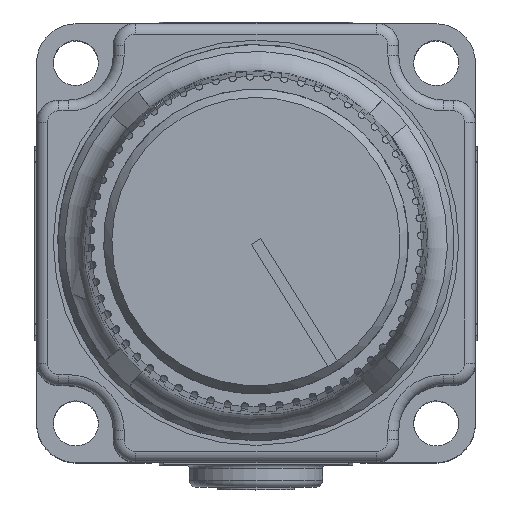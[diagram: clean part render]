
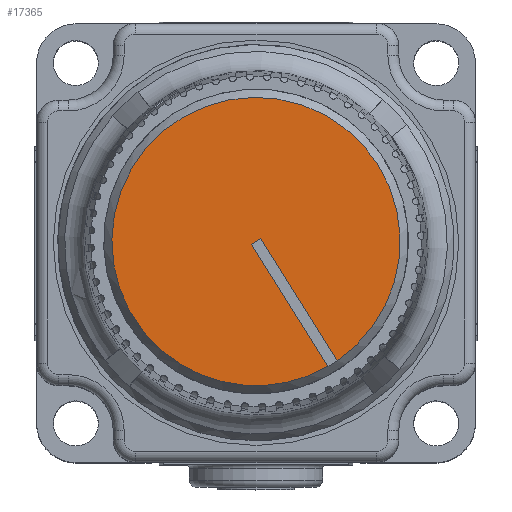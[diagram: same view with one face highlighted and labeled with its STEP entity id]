
A CAD part, top view. The second image highlights one B-rep face of the part: STEP entity #17365.
In plain terms, the highlighted planar face has unit normal (0, 0, 1).
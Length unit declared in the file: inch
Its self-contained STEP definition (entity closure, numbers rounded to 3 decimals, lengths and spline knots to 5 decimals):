
#1723=LINE('',#33987,#2895);
#1728=LINE('',#34006,#2900);
#1731=LINE('',#34011,#2903);
#2895=VECTOR('',#23504,0.3937);
#2900=VECTOR('',#23515,0.3937);
#2903=VECTOR('',#23520,0.3937);
#4065=FACE_OUTER_BOUND('',#5109,.T.);
#5109=EDGE_LOOP('',(#13926,#13927,#13928,#13929,#13930));
#5969=CIRCLE('',#19161,0.4);
#5970=CIRCLE('',#19162,0.4);
#7436=VERTEX_POINT('',#33985);
#7437=VERTEX_POINT('',#33986);
#7440=VERTEX_POINT('',#33999);
#7442=VERTEX_POINT('',#34005);
#7444=VERTEX_POINT('',#34015);
#9644=EDGE_CURVE('',#7436,#7437,#1723,.T.);
#9651=EDGE_CURVE('',#7442,#7440,#1728,.T.);
#9654=EDGE_CURVE('',#7437,#7442,#1731,.T.);
#9656=EDGE_CURVE('',#7440,#7444,#5969,.T.);
#9657=EDGE_CURVE('',#7444,#7436,#5970,.T.);
#13926=ORIENTED_EDGE('',*,*,#9651,.T.);
#13927=ORIENTED_EDGE('',*,*,#9656,.T.);
#13928=ORIENTED_EDGE('',*,*,#9657,.T.);
#13929=ORIENTED_EDGE('',*,*,#9644,.T.);
#13930=ORIENTED_EDGE('',*,*,#9654,.T.);
#15580=PLANE('',#19165);
#17365=ADVANCED_FACE('',(#4065),#15580,.T.);
#19161=AXIS2_PLACEMENT_3D('',#34016,#23526,#23527);
#19162=AXIS2_PLACEMENT_3D('',#34017,#23528,#23529);
#19165=AXIS2_PLACEMENT_3D('',#34023,#23535,#23536);
#23504=DIRECTION('',(-0.532,0.847,0.));
#23515=DIRECTION('',(0.532,-0.847,0.));
#23520=DIRECTION('',(0.847,0.532,0.));
#23526=DIRECTION('center_axis',(0.,0.,1.));
#23527=DIRECTION('ref_axis',(0.847,0.532,0.));
#23528=DIRECTION('center_axis',(0.,0.,1.));
#23529=DIRECTION('ref_axis',(0.847,0.532,0.));
#23535=DIRECTION('center_axis',(0.,0.,1.));
#23536=DIRECTION('ref_axis',(1.,0.,0.));
#33985=CARTESIAN_POINT('',(0.43566,-0.39717,1.8705));
#33986=CARTESIAN_POINT('',(0.22317,-0.05861,1.8705));
#33987=CARTESIAN_POINT('',(0.43566,-0.39717,1.8705));
#33999=CARTESIAN_POINT('',(0.46107,-0.38122,1.8705));
#34005=CARTESIAN_POINT('',(0.24858,-0.04266,1.8705));
#34006=CARTESIAN_POINT('',(0.24858,-0.04266,1.8705));
#34011=CARTESIAN_POINT('',(0.22317,-0.05861,1.8705));
#34015=CARTESIAN_POINT('',(0.08372,-0.42056,1.8705));
#34016=CARTESIAN_POINT('Origin',(0.23587,-0.05063,
1.8705));
#34017=CARTESIAN_POINT('Origin',(0.23587,-0.05063,
1.8705));
#34023=CARTESIAN_POINT('Origin',(-0.1129,-0.26647,
1.8705));
